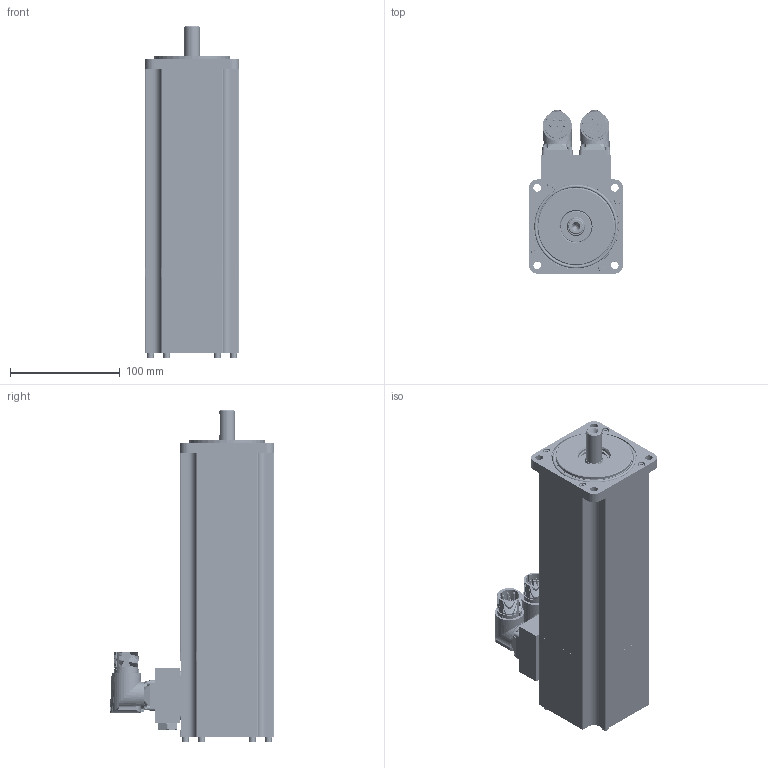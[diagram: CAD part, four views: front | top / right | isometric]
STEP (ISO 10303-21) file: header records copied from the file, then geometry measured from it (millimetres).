
FILE_DESCRIPTION (( 'STEP AP203' ), '1' );
FILE_NAME ('073708A.stp', '2021-07-19T12:44:34', ( '' ), ( '' ), 'SwSTEP 2.0', 'SolidWorks 2019', '' );
FILE_SCHEMA (( 'CONFIG_CONTROL_DESIGN' ));
Products named in the file (1): 073708A
Bounding box: 86 x 149.91 x 302.99 mm (x, y, z)
Volume: 1408989.7 mm3; surface area: 499439 mm2
Topology: 215 solids, 217 shells, 10922 faces, 28605 edges, 18552 vertices
Faces by surface type: plane 4906, cylinder 3341, bspline 1412, cone 672, torus 507, sphere 84
Entity records: 590324 total; most frequent: CARTESIAN_POINT 333512, ORIENTED_EDGE 56634, DIRECTION 48321, EDGE_CURVE 28317, VERTEX_POINT 18480, AXIS2_PLACEMENT_3D 16242, LINE 15837, VECTOR 15837
